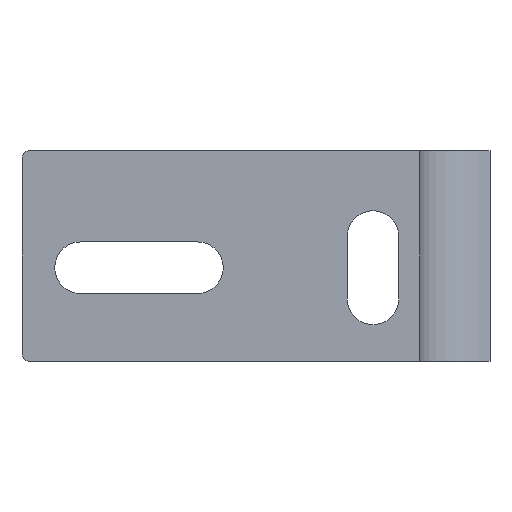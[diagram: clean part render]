
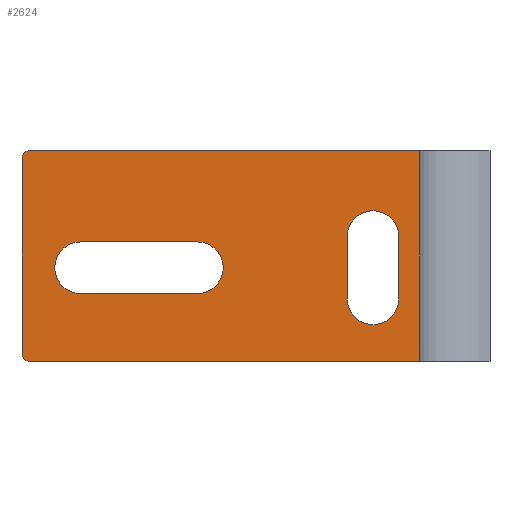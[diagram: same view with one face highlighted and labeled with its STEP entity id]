
A CAD part, front view. The second image highlights one B-rep face of the part: STEP entity #2624.
In plain terms, the highlighted planar face has unit normal (0, -1, 0).
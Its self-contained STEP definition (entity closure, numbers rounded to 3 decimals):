
#54 = FACE_BOUND ( 'NONE', #88, .T. ) ;
#76 = CIRCLE ( 'NONE', #1545, 3.3 ) ;
#80 = DIRECTION ( 'NONE',  ( 0., -1., 0. ) ) ;
#88 = EDGE_LOOP ( 'NONE', ( #2739, #1537, #2644, #852 ) ) ;
#109 = DIRECTION ( 'NONE',  ( 0., 0., 1. ) ) ;
#113 = EDGE_LOOP ( 'NONE', ( #1593, #1342, #1600, #919, #620, #1916 ) ) ;
#120 = CIRCLE ( 'NONE', #1224, 1. ) ;
#148 = ORIENTED_EDGE ( 'NONE', *, *, #2088, .F. ) ;
#156 = DIRECTION ( 'NONE',  ( 1., 0., 0. ) ) ;
#184 = LINE ( 'NONE', #222, #655 ) ;
#200 = ORIENTED_EDGE ( 'NONE', *, *, #924, .F. ) ;
#204 = VERTEX_POINT ( 'NONE', #2729 ) ;
#222 = CARTESIAN_POINT ( 'NONE',  ( 30.163, -14.339, 8. ) ) ;
#225 = DIRECTION ( 'NONE',  ( 0., 0., 1. ) ) ;
#247 = VECTOR ( 'NONE', #705, 1000. ) ;
#296 = DIRECTION ( 'NONE',  ( 0., 1., 0. ) ) ;
#300 = CARTESIAN_POINT ( 'NONE',  ( -17.137, -14.339, 0. ) ) ;
#322 = DIRECTION ( 'NONE',  ( -1., 0., 0. ) ) ;
#325 = CARTESIAN_POINT ( 'NONE',  ( 32.863, -14.339, 27. ) ) ;
#343 = VERTEX_POINT ( 'NONE', #2655 ) ;
#354 = VERTEX_POINT ( 'NONE', #2019 ) ;
#407 = AXIS2_PLACEMENT_3D ( 'NONE', #2608, #441, #225 ) ;
#414 = VECTOR ( 'NONE', #795, 1000. ) ;
#417 = VERTEX_POINT ( 'NONE', #619 ) ;
#424 = VERTEX_POINT ( 'NONE', #2727 ) ;
#425 = FACE_BOUND ( 'NONE', #1201, .T. ) ;
#441 = DIRECTION ( 'NONE',  ( 0., 1., 0. ) ) ;
#480 = PLANE ( 'NONE',  #407 ) ;
#481 = DIRECTION ( 'NONE',  ( 0., -1., 0. ) ) ;
#500 = EDGE_CURVE ( 'NONE', #1449, #2487, #2354, .T. ) ;
#532 = VERTEX_POINT ( 'NONE', #1949 ) ;
#553 = CARTESIAN_POINT ( 'NONE',  ( -10.637, -14.339, 12. ) ) ;
#596 = ORIENTED_EDGE ( 'NONE', *, *, #2377, .F. ) ;
#619 = CARTESIAN_POINT ( 'NONE',  ( 23.563, -14.339, 8. ) ) ;
#620 = ORIENTED_EDGE ( 'NONE', *, *, #1059, .F. ) ;
#655 = VECTOR ( 'NONE', #1900, 1000. ) ;
#683 = VECTOR ( 'NONE', #156, 1000. ) ;
#695 = DIRECTION ( 'NONE',  ( 0., 1., 0. ) ) ;
#705 = DIRECTION ( 'NONE',  ( -1., 0., 0. ) ) ;
#719 = LINE ( 'NONE', #1007, #414 ) ;
#741 = CARTESIAN_POINT ( 'NONE',  ( 4.363, -14.339, 8.7 ) ) ;
#763 = CARTESIAN_POINT ( 'NONE',  ( -18.137, -14.339, 1. ) ) ;
#793 = CARTESIAN_POINT ( 'NONE',  ( 26.863, -14.339, 8. ) ) ;
#795 = DIRECTION ( 'NONE',  ( 0., 0., -1. ) ) ;
#796 = DIRECTION ( 'NONE',  ( 1., 0., 0. ) ) ;
#840 = DIRECTION ( 'NONE',  ( 0., 0., -1. ) ) ;
#852 = ORIENTED_EDGE ( 'NONE', *, *, #500, .T. ) ;
#874 = AXIS2_PLACEMENT_3D ( 'NONE', #1236, #2323, #840 ) ;
#882 = DIRECTION ( 'NONE',  ( 0., 0., 1. ) ) ;
#919 = ORIENTED_EDGE ( 'NONE', *, *, #981, .T. ) ;
#924 = EDGE_CURVE ( 'NONE', #2362, #1516, #1719, .T. ) ;
#929 = CARTESIAN_POINT ( 'NONE',  ( 26.863, -14.339, 16. ) ) ;
#960 = CIRCLE ( 'NONE', #1129, 3.3 ) ;
#981 = EDGE_CURVE ( 'NONE', #2668, #2245, #120, .T. ) ;
#1007 = CARTESIAN_POINT ( 'NONE',  ( 23.563, -14.339, 16. ) ) ;
#1059 = EDGE_CURVE ( 'NONE', #354, #2245, #1744, .T. ) ;
#1087 = CARTESIAN_POINT ( 'NONE',  ( -18.137, -14.339, 0. ) ) ;
#1129 = AXIS2_PLACEMENT_3D ( 'NONE', #929, #2052, #1610 ) ;
#1159 = CARTESIAN_POINT ( 'NONE',  ( 4.363, -14.339, 8.7 ) ) ;
#1201 = EDGE_LOOP ( 'NONE', ( #148, #200, #596, #2726, #1682 ) ) ;
#1224 = AXIS2_PLACEMENT_3D ( 'NONE', #1530, #481, #882 ) ;
#1232 = CARTESIAN_POINT ( 'NONE',  ( 26.863, -14.339, 4.7 ) ) ;
#1236 = CARTESIAN_POINT ( 'NONE',  ( 26.863, -14.339, 8. ) ) ;
#1244 = LINE ( 'NONE', #1646, #2344 ) ;
#1271 = EDGE_CURVE ( 'NONE', #424, #417, #719, .T. ) ;
#1277 = EDGE_CURVE ( 'NONE', #343, #2277, #2070, .T. ) ;
#1342 = ORIENTED_EDGE ( 'NONE', *, *, #2531, .T. ) ;
#1364 = VECTOR ( 'NONE', #796, 1000. ) ;
#1439 = VECTOR ( 'NONE', #2202, 1000. ) ;
#1449 = VERTEX_POINT ( 'NONE', #2537 ) ;
#1466 = EDGE_CURVE ( 'NONE', #354, #2277, #1244, .T. ) ;
#1499 = EDGE_CURVE ( 'NONE', #1767, #424, #960, .T. ) ;
#1516 = VERTEX_POINT ( 'NONE', #2195 ) ;
#1530 = CARTESIAN_POINT ( 'NONE',  ( -17.137, -14.339, 1. ) ) ;
#1537 = ORIENTED_EDGE ( 'NONE', *, *, #1658, .T. ) ;
#1545 = AXIS2_PLACEMENT_3D ( 'NONE', #553, #296, #1579 ) ;
#1579 = DIRECTION ( 'NONE',  ( 0., 0., 1. ) ) ;
#1593 = ORIENTED_EDGE ( 'NONE', *, *, #1277, .F. ) ;
#1600 = ORIENTED_EDGE ( 'NONE', *, *, #2746, .T. ) ;
#1610 = DIRECTION ( 'NONE',  ( 0., 0., -1. ) ) ;
#1612 = CARTESIAN_POINT ( 'NONE',  ( -17.137, -14.339, 26. ) ) ;
#1646 = CARTESIAN_POINT ( 'NONE',  ( 32.863, -14.339, 27. ) ) ;
#1649 = CARTESIAN_POINT ( 'NONE',  ( -10.637, -14.339, 15.3 ) ) ;
#1658 = EDGE_CURVE ( 'NONE', #204, #532, #76, .T. ) ;
#1682 = ORIENTED_EDGE ( 'NONE', *, *, #1499, .F. ) ;
#1719 = CIRCLE ( 'NONE', #874, 3.3 ) ;
#1722 = AXIS2_PLACEMENT_3D ( 'NONE', #2587, #695, #2638 ) ;
#1744 = LINE ( 'NONE', #1087, #247 ) ;
#1767 = VERTEX_POINT ( 'NONE', #2272 ) ;
#1798 = CIRCLE ( 'NONE', #2295, 1. ) ;
#1818 = CARTESIAN_POINT ( 'NONE',  ( -18.137, -14.339, 26. ) ) ;
#1850 = VECTOR ( 'NONE', #322, 1000. ) ;
#1863 = CARTESIAN_POINT ( 'NONE',  ( 35.863, -14.339, 27. ) ) ;
#1900 = DIRECTION ( 'NONE',  ( 0., 0., 1. ) ) ;
#1916 = ORIENTED_EDGE ( 'NONE', *, *, #1466, .T. ) ;
#1949 = CARTESIAN_POINT ( 'NONE',  ( -10.637, -14.339, 15.3 ) ) ;
#1985 = EDGE_CURVE ( 'NONE', #532, #1449, #2713, .T. ) ;
#1996 = VERTEX_POINT ( 'NONE', #1818 ) ;
#2008 = CIRCLE ( 'NONE', #2453, 3.3 ) ;
#2019 = CARTESIAN_POINT ( 'NONE',  ( 32.863, -14.339, 0. ) ) ;
#2044 = CARTESIAN_POINT ( 'NONE',  ( -18.137, -14.339, 21. ) ) ;
#2052 = DIRECTION ( 'NONE',  ( 0., -1., 0. ) ) ;
#2070 = LINE ( 'NONE', #1863, #683 ) ;
#2088 = EDGE_CURVE ( 'NONE', #1516, #1767, #184, .T. ) ;
#2195 = CARTESIAN_POINT ( 'NONE',  ( 30.163, -14.339, 8. ) ) ;
#2202 = DIRECTION ( 'NONE',  ( 0., 0., -1. ) ) ;
#2245 = VERTEX_POINT ( 'NONE', #300 ) ;
#2272 = CARTESIAN_POINT ( 'NONE',  ( 30.163, -14.339, 16. ) ) ;
#2277 = VERTEX_POINT ( 'NONE', #325 ) ;
#2295 = AXIS2_PLACEMENT_3D ( 'NONE', #1612, #80, #109 ) ;
#2323 = DIRECTION ( 'NONE',  ( 0., -1., 0. ) ) ;
#2344 = VECTOR ( 'NONE', #2731, 1000. ) ;
#2354 = CIRCLE ( 'NONE', #1722, 3.3 ) ;
#2362 = VERTEX_POINT ( 'NONE', #1232 ) ;
#2364 = FACE_OUTER_BOUND ( 'NONE', #113, .T. ) ;
#2377 = EDGE_CURVE ( 'NONE', #417, #2362, #2008, .T. ) ;
#2453 = AXIS2_PLACEMENT_3D ( 'NONE', #793, #2759, #2514 ) ;
#2457 = LINE ( 'NONE', #2044, #1439 ) ;
#2487 = VERTEX_POINT ( 'NONE', #741 ) ;
#2514 = DIRECTION ( 'NONE',  ( 0., 0., -1. ) ) ;
#2527 = EDGE_CURVE ( 'NONE', #2487, #204, #2688, .T. ) ;
#2531 = EDGE_CURVE ( 'NONE', #343, #1996, #1798, .T. ) ;
#2537 = CARTESIAN_POINT ( 'NONE',  ( 4.363, -14.339, 15.3 ) ) ;
#2587 = CARTESIAN_POINT ( 'NONE',  ( 4.363, -14.339, 12. ) ) ;
#2608 = CARTESIAN_POINT ( 'NONE',  ( 0., -14.339, 0. ) ) ;
#2624 = ADVANCED_FACE ( 'NONE', ( #425, #54, #2364 ), #480, .F. ) ;
#2638 = DIRECTION ( 'NONE',  ( 0., 0., 1. ) ) ;
#2644 = ORIENTED_EDGE ( 'NONE', *, *, #1985, .T. ) ;
#2655 = CARTESIAN_POINT ( 'NONE',  ( -17.137, -14.339, 27. ) ) ;
#2668 = VERTEX_POINT ( 'NONE', #763 ) ;
#2688 = LINE ( 'NONE', #1159, #1850 ) ;
#2713 = LINE ( 'NONE', #1649, #1364 ) ;
#2726 = ORIENTED_EDGE ( 'NONE', *, *, #1271, .F. ) ;
#2727 = CARTESIAN_POINT ( 'NONE',  ( 23.563, -14.339, 16. ) ) ;
#2729 = CARTESIAN_POINT ( 'NONE',  ( -10.637, -14.339, 8.7 ) ) ;
#2731 = DIRECTION ( 'NONE',  ( 0., 0., 1. ) ) ;
#2739 = ORIENTED_EDGE ( 'NONE', *, *, #2527, .T. ) ;
#2746 = EDGE_CURVE ( 'NONE', #1996, #2668, #2457, .T. ) ;
#2759 = DIRECTION ( 'NONE',  ( 0., -1., 0. ) ) ;
